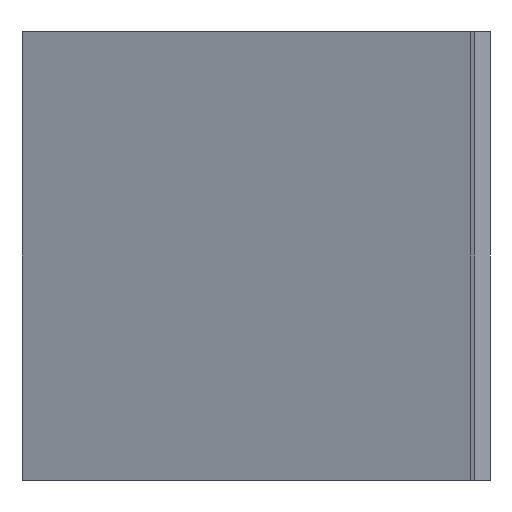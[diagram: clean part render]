
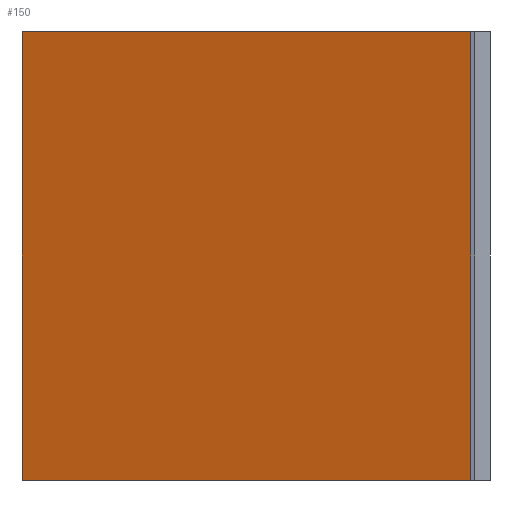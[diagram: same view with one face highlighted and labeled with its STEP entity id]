
A CAD part, left-side view. The second image highlights one B-rep face of the part: STEP entity #150.
In plain terms, the highlighted planar face has unit normal (0.942, -0.335, 0).
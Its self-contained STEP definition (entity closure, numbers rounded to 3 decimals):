
#98=CARTESIAN_POINT('Vertex',(20.,0.,0.)) ;
#101=CARTESIAN_POINT('Line Origine',(20.,0.,59.)) ;
#105=CARTESIAN_POINT('Vertex',(20.,0.,118.)) ;
#120=CARTESIAN_POINT('Axis2P3D Location',(20.,0.,0.)) ;
#125=CARTESIAN_POINT('Line Origine',(41.,59.,0.)) ;
#129=CARTESIAN_POINT('Vertex',(62.,118.,0.)) ;
#132=CARTESIAN_POINT('Line Origine',(62.,118.,59.)) ;
#136=CARTESIAN_POINT('Vertex',(62.,118.,118.)) ;
#139=CARTESIAN_POINT('Line Origine',(41.,59.,118.)) ;
#102=DIRECTION('Vector Direction',(0.,0.,1.)) ;
#121=DIRECTION('Axis2P3D Direction',(0.942,-0.335,0.)) ;
#122=DIRECTION('Axis2P3D XDirection',(0.335,0.942,0.)) ;
#126=DIRECTION('Vector Direction',(0.335,0.942,0.)) ;
#133=DIRECTION('Vector Direction',(0.,0.,1.)) ;
#140=DIRECTION('Vector Direction',(0.335,0.942,0.)) ;
#123=AXIS2_PLACEMENT_3D('Plane Axis2P3D',#120,#121,#122) ;
#145=ORIENTED_EDGE('',*,*,#107,.F.) ;
#146=ORIENTED_EDGE('',*,*,#131,.T.) ;
#147=ORIENTED_EDGE('',*,*,#138,.T.) ;
#148=ORIENTED_EDGE('',*,*,#143,.F.) ;
#103=VECTOR('Line Direction',#102,1.) ;
#127=VECTOR('Line Direction',#126,1.) ;
#134=VECTOR('Line Direction',#133,1.) ;
#141=VECTOR('Line Direction',#140,1.) ;
#150=ADVANCED_FACE('Extrude.1',(#149),#124,.T.) ;
#107=EDGE_CURVE('',#99,#106,#104,.T.) ;
#131=EDGE_CURVE('',#99,#130,#128,.T.) ;
#138=EDGE_CURVE('',#130,#137,#135,.T.) ;
#143=EDGE_CURVE('',#106,#137,#142,.T.) ;
#144=EDGE_LOOP('',(#145,#146,#147,#148)) ;
#149=FACE_OUTER_BOUND('',#144,.T.) ;
#104=LINE('Line',#101,#103) ;
#128=LINE('Line',#125,#127) ;
#135=LINE('Line',#132,#134) ;
#142=LINE('Line',#139,#141) ;
#124=PLANE('',#123) ;
#99=VERTEX_POINT('',#98) ;
#106=VERTEX_POINT('',#105) ;
#130=VERTEX_POINT('',#129) ;
#137=VERTEX_POINT('',#136) ;
